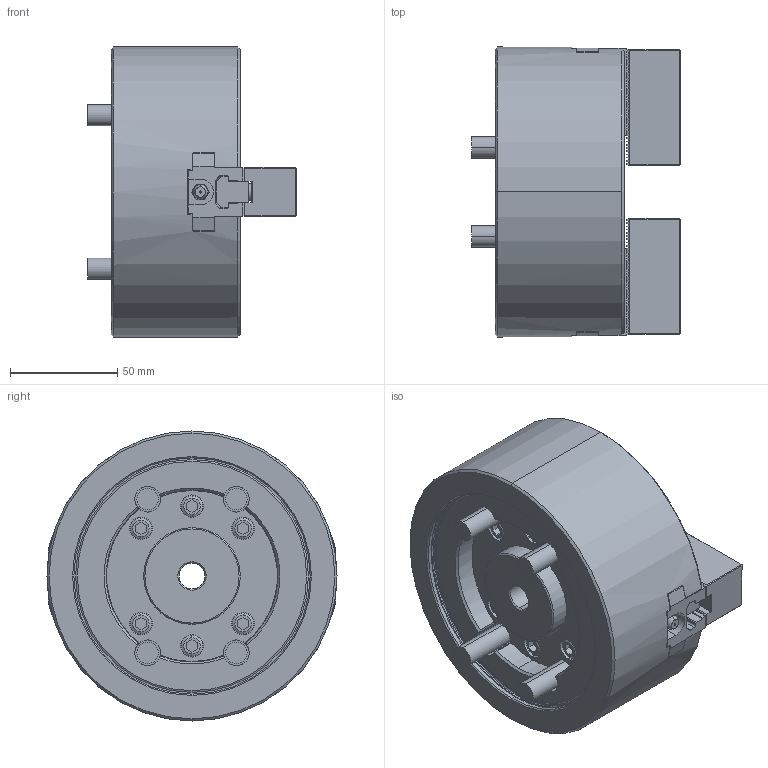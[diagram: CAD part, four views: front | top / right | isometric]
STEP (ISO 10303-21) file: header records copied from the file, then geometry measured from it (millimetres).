
FILE_DESCRIPTION (( 'STEP AP214' ), '1' );
FILE_NAME ('BT205_61P327190-6_UC.STEP', '2020-12-11T06:23:57', ( '' ), ( '' ), 'SwSTEP 2.0', 'SolidWorks 2017', '' );
FILE_SCHEMA (( 'AUTOMOTIVE_DESIGN' ));
Length unit declared in the file: millimetre
Products named in the file (14): Bアナツキ M8×20; 61P422113-1_T僫僢僩; 61P423688-4_ソフトジョー; BT205_BASE^61P327189-6_BT205 ASSY; BT205_61P327190-6_UC
Assembly tree (9 placements, depth 2):
  Bアナツキ M8×20
  Bアナツキ M8×20
  61P422113-1_T僫僢僩
  Bアナツキ M8×20
  Bアナツキ M8×20
Bounding box: 97.2 x 135 x 135 mm (x, y, z)
Volume: 789795.8 mm3; surface area: 125150.3 mm2
Topology: 9 solids, 13 shells, 2359 faces, 6606 edges, 4362 vertices
Faces by surface type: plane 1651, cylinder 500, bspline 102, cone 74, torus 24, sphere 8
Entity records: 66407 total; most frequent: CARTESIAN_POINT 16192, ORIENTED_EDGE 10940, DIRECTION 9606, EDGE_CURVE 5470, LINE 4166, VECTOR 4166, VERTEX_POINT 3610, AXIS2_PLACEMENT_3D 2720
